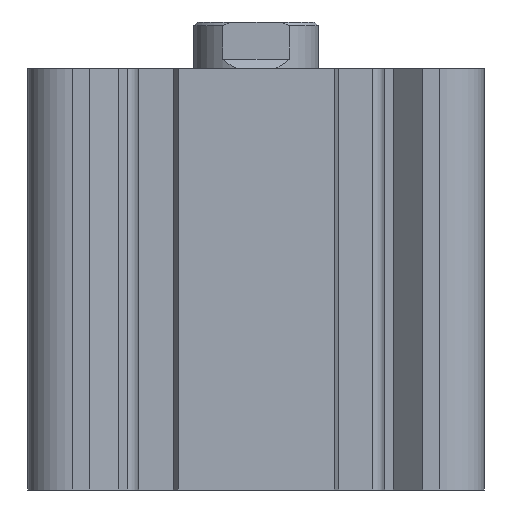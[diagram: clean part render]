
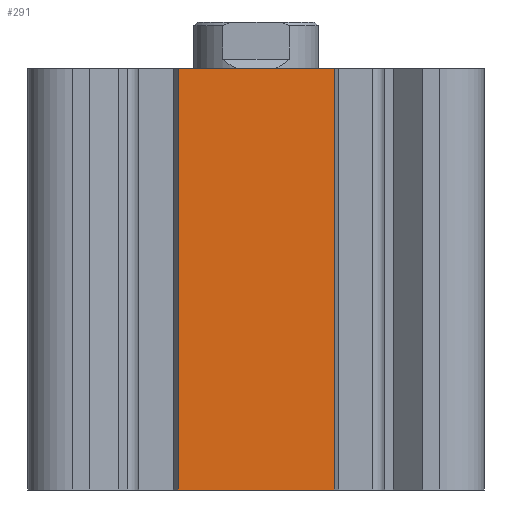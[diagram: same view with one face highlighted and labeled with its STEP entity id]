
A CAD part, left-side view. The second image highlights one B-rep face of the part: STEP entity #291.
In plain terms, the highlighted planar face has unit normal (-1, 0, 0).
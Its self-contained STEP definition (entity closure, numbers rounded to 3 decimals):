
#291 = ADVANCED_FACE( '', ( #689 ), #690, .T. );
#689 = FACE_OUTER_BOUND( '', #1239, .T. );
#690 = PLANE( '', #1240 );
#1239 = EDGE_LOOP( '', ( #1987, #1988, #1989, #1990 ) );
#1240 = AXIS2_PLACEMENT_3D( '', #1991, #1992, #1993 );
#1987 = ORIENTED_EDGE( '', *, *, #3005, .F. );
#1988 = ORIENTED_EDGE( '', *, *, #3087, .F. );
#1989 = ORIENTED_EDGE( '', *, *, #3088, .T. );
#1990 = ORIENTED_EDGE( '', *, *, #3079, .T. );
#1991 = CARTESIAN_POINT( '', ( -55.5, 19.998, -108. ) );
#1992 = DIRECTION( '', ( -1., 0., 0. ) );
#1993 = DIRECTION( '', ( 0., 0., 1. ) );
#3005 = EDGE_CURVE( '', #3552, #3554, #3555, .T. );
#3079 = EDGE_CURVE( '', #3684, #3554, #3685, .T. );
#3087 = EDGE_CURVE( '', #3696, #3552, #3697, .T. );
#3088 = EDGE_CURVE( '', #3696, #3684, #3698, .T. );
#3552 = VERTEX_POINT( '', #4308 );
#3554 = VERTEX_POINT( '', #4311 );
#3555 = LINE( '', #4312, #4313 );
#3684 = VERTEX_POINT( '', #4497 );
#3685 = LINE( '', #4498, #4499 );
#3696 = VERTEX_POINT( '', #4514 );
#3697 = LINE( '', #4515, #4516 );
#3698 = LINE( '', #4517, #4518 );
#4308 = CARTESIAN_POINT( '', ( -55.5, 19.998, 0. ) );
#4311 = CARTESIAN_POINT( '', ( -55.5, -20.002, 0. ) );
#4312 = CARTESIAN_POINT( '', ( -55.5, 19.998, 0. ) );
#4313 = VECTOR( '', #5116, 1000. );
#4497 = CARTESIAN_POINT( '', ( -55.5, -20.002, -108. ) );
#4498 = CARTESIAN_POINT( '', ( -55.5, -20.002, -108. ) );
#4499 = VECTOR( '', #5214, 1000. );
#4514 = CARTESIAN_POINT( '', ( -55.5, 19.998, -108. ) );
#4515 = CARTESIAN_POINT( '', ( -55.5, 19.998, -108. ) );
#4516 = VECTOR( '', #5222, 1000. );
#4517 = CARTESIAN_POINT( '', ( -55.5, 19.998, -108. ) );
#4518 = VECTOR( '', #5223, 1000. );
#5116 = DIRECTION( '', ( 0., -1., 0. ) );
#5214 = DIRECTION( '', ( 0., 0., 1. ) );
#5222 = DIRECTION( '', ( 0., 0., 1. ) );
#5223 = DIRECTION( '', ( 0., -1., 0. ) );
